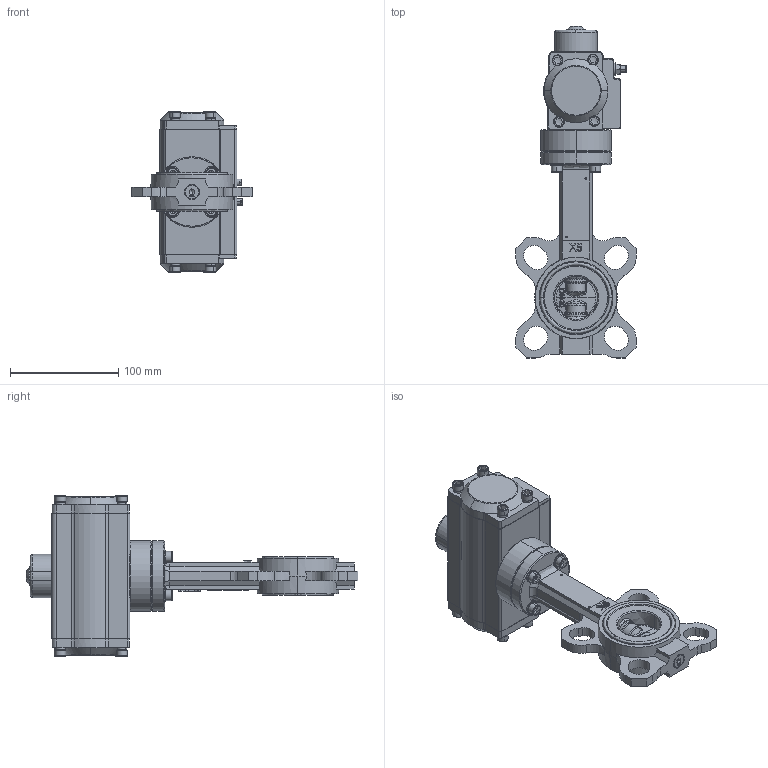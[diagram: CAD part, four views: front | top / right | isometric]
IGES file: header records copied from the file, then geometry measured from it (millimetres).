
Start section: SolidWorks IGES file using NURBS representation for surfaces
Global section: file name: H:\BE BIBLIOTHEQUE 3D\Projet_Biblio3D_2016\FSK\VPI\VPI-N03\VPI-N03 DN40.Igs; native system: SolidWorks 2014; preprocessor: SolidWorks 2014; author: a.cartier; date: 160929.170540; units: millimetre
Bounding box: 111 x 306.32 x 148.56 mm (x, y, z)
Volume: 693659.7 mm3; surface area: 225497 mm2
Topology: 59 solids, 59 shells, 2316 faces, 5816 edges, 3655 vertices
Faces by surface type: bspline 2316
